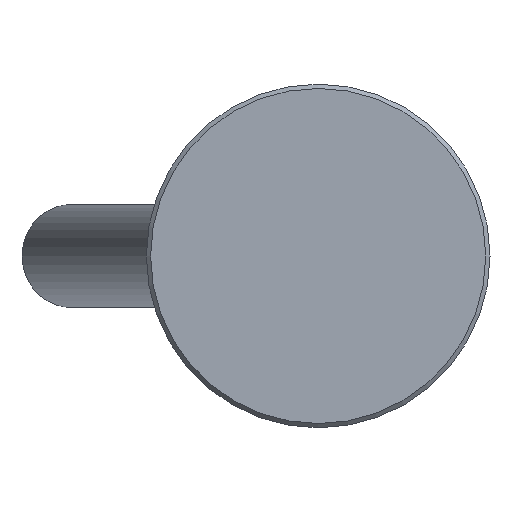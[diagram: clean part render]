
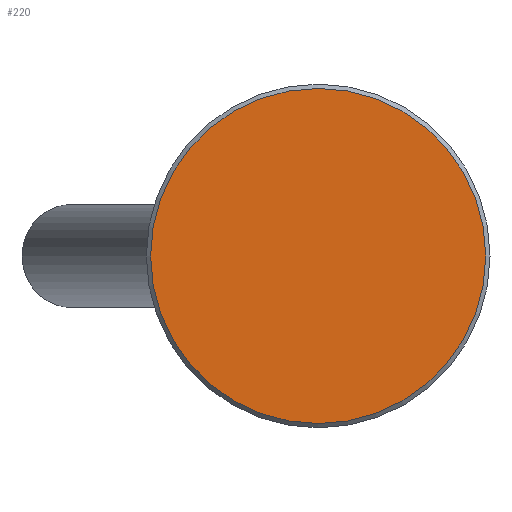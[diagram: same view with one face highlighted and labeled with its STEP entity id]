
A CAD part, front view. The second image highlights one B-rep face of the part: STEP entity #220.
In plain terms, the highlighted planar face has unit normal (0, -1, 0).
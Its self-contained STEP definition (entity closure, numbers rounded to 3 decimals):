
#220 = ADVANCED_FACE( '', ( #424 ), #425, .F. );
#424 = FACE_OUTER_BOUND( '', #620, .T. );
#425 = PLANE( '', #621 );
#620 = EDGE_LOOP( '', ( #972 ) );
#621 = AXIS2_PLACEMENT_3D( '', #973, #974, #975 );
#972 = ORIENTED_EDGE( '', *, *, #1168, .T. );
#973 = CARTESIAN_POINT( '', ( 19.5, 0., 0. ) );
#974 = DIRECTION( '', ( 0., 1., 0. ) );
#975 = DIRECTION( '', ( 0., 0., 1. ) );
#1168 = EDGE_CURVE( '', #1370, #1370, #1371, .T. );
#1370 = VERTEX_POINT( '', #1735 );
#1371 = CIRCLE( '', #1736, 19.5 );
#1735 = CARTESIAN_POINT( '', ( 0., 0., -19.5 ) );
#1736 = AXIS2_PLACEMENT_3D( '', #2054, #2055, #2056 );
#2054 = CARTESIAN_POINT( '', ( 0., 0., 0. ) );
#2055 = DIRECTION( '', ( 0., -1., 0. ) );
#2056 = DIRECTION( '', ( 0., 0., -1. ) );
